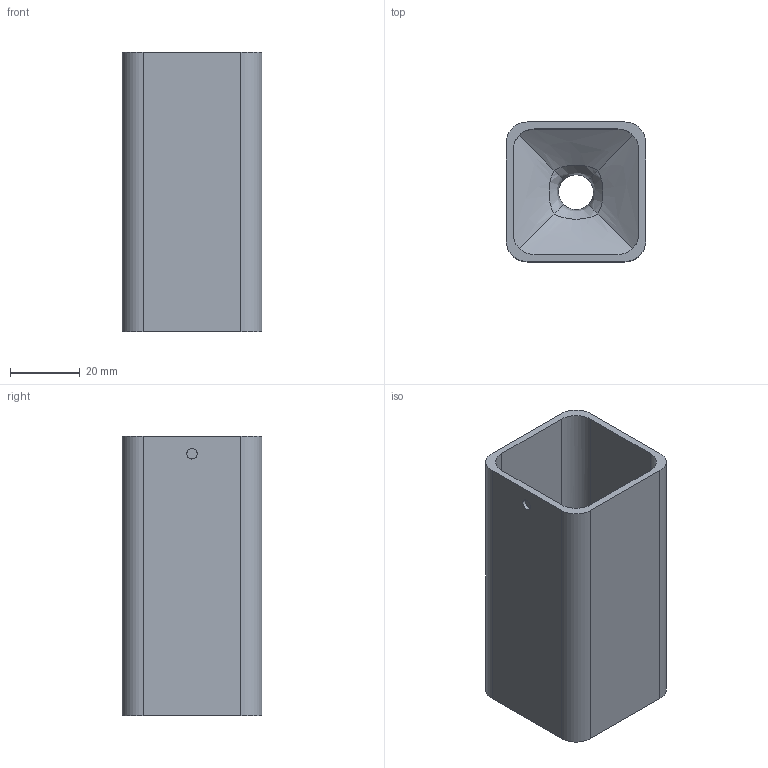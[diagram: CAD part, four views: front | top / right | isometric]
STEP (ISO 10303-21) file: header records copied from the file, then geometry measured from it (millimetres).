
FILE_DESCRIPTION(/* description */ (''),/* implementation_level */ '2;1');
FILE_NAME(/* name */ 'D:/pobrane/pwr/sem 6/konkurs kompozytywni/step/zbiornik.step',/* time_stamp */ '2021-05-10T22:35:05+02:00',/* author */ (''),/* organization */ (''),/* preprocessor_version */ 'ST-DEVELOPER v18.1',/* originating_system */ 'Autodesk Translation Framework v10.6.0.1341',/* authorisation */ '');
FILE_SCHEMA (('AUTOMOTIVE_DESIGN { 1 0 10303 214 3 1 1 }'));
Length unit declared in the file: millimetre
Products named in the file (1): pojemnik
Bounding box: 40 x 40 x 80 mm (x, y, z)
Volume: 43002.5 mm3; surface area: 24506.7 mm2
Topology: 1 solids, 1 shells, 49 faces, 123 edges, 79 vertices
Faces by surface type: plane 25, cylinder 16, bspline 8
Full cylindrical faces by diameter (mm): 3 x2, 5.4 x1, 10 x1
Entity records: 1794 total; most frequent: CARTESIAN_POINT 628, ORIENTED_EDGE 246, DIRECTION 204, EDGE_CURVE 123, VERTEX_POINT 79, LINE 70, VECTOR 70, AXIS2_PLACEMENT_3D 67
